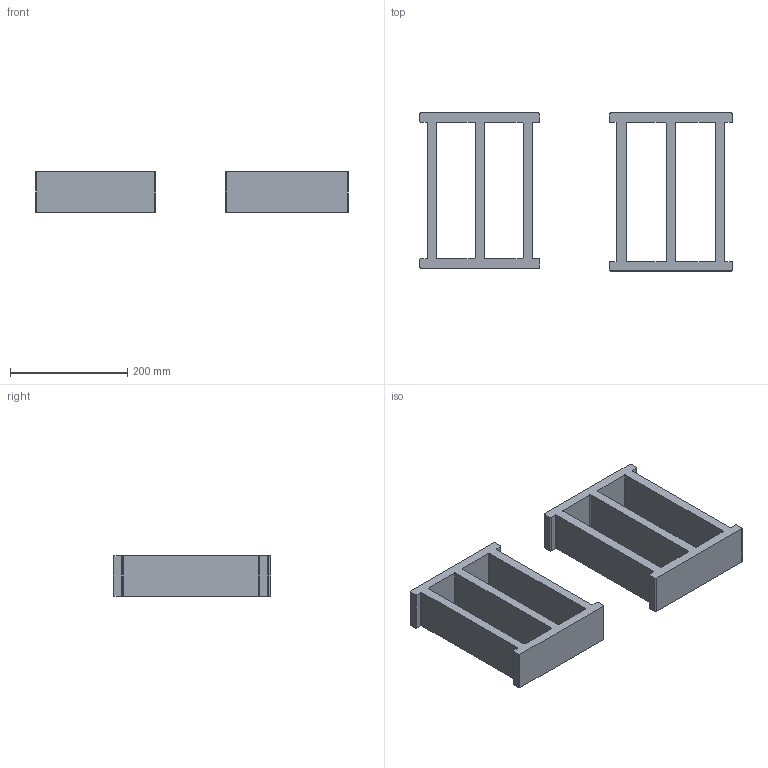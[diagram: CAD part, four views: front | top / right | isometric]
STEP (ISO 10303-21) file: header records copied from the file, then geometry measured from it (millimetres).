
FILE_DESCRIPTION(/* description */ (''),/* implementation_level */ '2;1');
FILE_NAME(/* name */ 'EMPURIES_FERRES_2FORATS',/* time_stamp */ '2023-11-02T15:59:17+01:00',/* author */ (''),/* organization */ (''),/* preprocessor_version */ 'ST-DEVELOPER v16.5',/* originating_system */ 'Rhino 7.15',/* authorisation */ '');
FILE_SCHEMA (('AUTOMOTIVE_DESIGN'));
Length unit declared in the file: millimetre
Products named in the file (1): Document
Bounding box: 534.33 x 270 x 70 mm (x, y, z)
Volume: 2510190.7 mm3; surface area: 379607.6 mm2
Topology: 2 solids, 2 shells, 84 faces, 240 edges, 160 vertices
Faces by surface type: plane 44, bspline 40
Entity records: 2475 total; most frequent: CARTESIAN_POINT 1150, ORIENTED_EDGE 480, EDGE_CURVE 240, VERTEX_POINT 160, EDGE_LOOP 92, ADVANCED_FACE 84, FACE_OUTER_BOUND 84, DIRECTION 48
